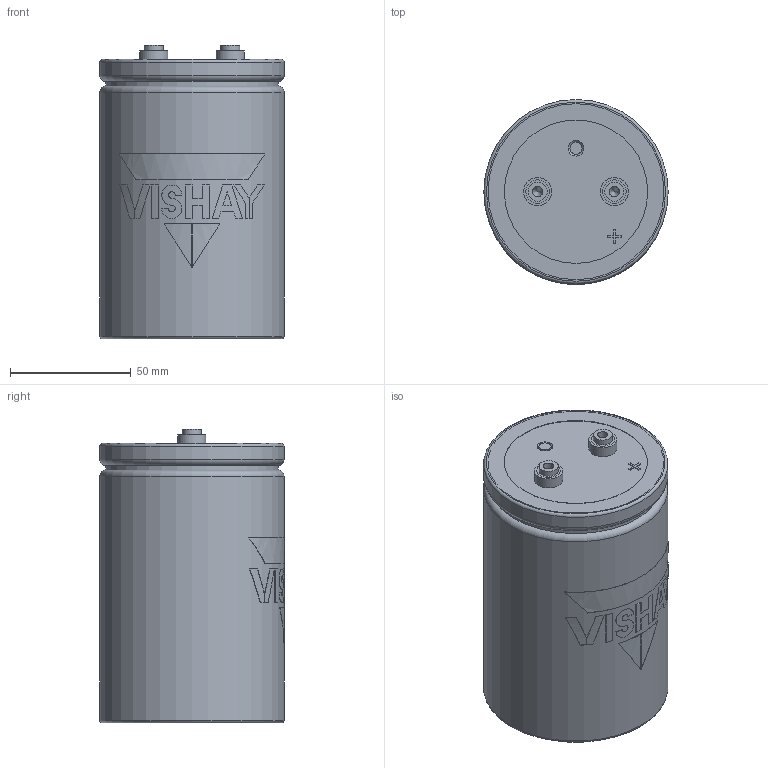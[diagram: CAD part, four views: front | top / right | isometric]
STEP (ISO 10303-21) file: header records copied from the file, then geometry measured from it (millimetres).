
FILE_DESCRIPTION(('FreeCAD Model'),'2;1');
FILE_NAME('C:/Users/tvandesteeg/Documents/Documents/FreeCAD/Stepfiles/ST capacitors/ST_HP_M5_76x114.step','2020-07-02T17:37:57',('Author'),(''), 'Open CASCADE STEP processor 7.3','FreeCAD','Unknown');
FILE_SCHEMA(('AUTOMOTIVE_DESIGN { 1 0 10303 214 1 1 1 1 }'));
Length unit declared in the file: millimetre
Products named in the file (7): VentBody; TerminalBody_(Mirror_#2); TerminalBody; Disc; LogoPrint; CanBody; BottomBody
Bounding box: 76.4 x 76.5 x 121.7 mm (x, y, z)
Volume: 525385.8 mm3; surface area: 62813.3 mm2
Topology: 17 solids, 17 shells, 149 faces, 313 edges, 206 vertices
Faces by surface type: plane 93, cylinder 48, torus 5, cone 3
Full cylindrical faces by diameter (mm): 4.2 x2, 5 x2, 7.9 x2, 9.8 x6, 11.7 x2, 59.422 x3, 71.4 x1, 72 x2, 76.4 x2
Entity records: 10653 total; most frequent: CARTESIAN_POINT 3357, DIRECTION 1204, ORIENTED_EDGE 622, PCURVE 622, DEFINITIONAL_REPRESENTATION 622, LINE 532, VECTOR 532, EDGE_CURVE 311
